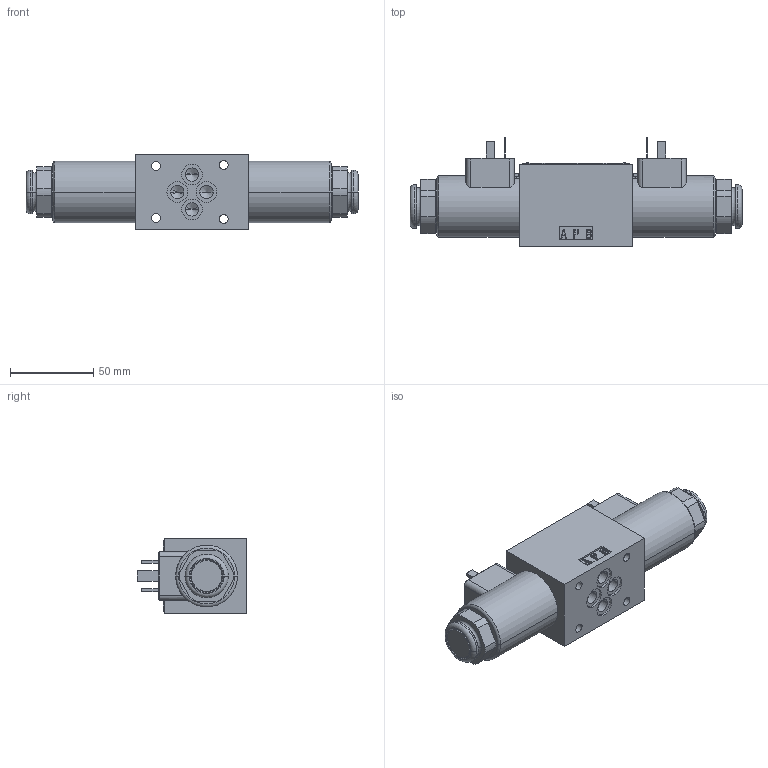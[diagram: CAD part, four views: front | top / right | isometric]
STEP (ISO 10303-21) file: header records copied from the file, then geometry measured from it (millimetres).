
FILE_DESCRIPTION((''),'2;1');
FILE_NAME('RPEL1_063Z11TP_E1_V001','2013-10-03T',('lsoukupova'),(''),'PRO/ENGINEER BY PARAMETRIC TECHNOLOGY CORPORATION, 2013150','PRO/ENGINEER BY PARAMETRIC TECHNOLOGY CORPORATION, 2013150','');
FILE_SCHEMA(('AUTOMOTIVE_DESIGN { 1 0 10303 214 1 1 1 1 }'));
Length unit declared in the file: millimetre
Products named in the file (1): RPEL1_063Z11TP_E1_V001
Bounding box: 199 x 65.5 x 45.5 mm (x, y, z)
Volume: 292075.2 mm3; surface area: 41859.3 mm2
Topology: 1 solids, 3 shells, 357 faces, 951 edges, 666 vertices
Faces by surface type: plane 223, cylinder 90, cone 28, torus 12, sphere 4
Entity records: 11408 total; most frequent: CARTESIAN_POINT 2253, DIRECTION 1871, ORIENTED_EDGE 1784, EDGE_CURVE 896, VECTOR 683, LINE 683, AXIS2_PLACEMENT_3D 594, VERTEX_POINT 588
